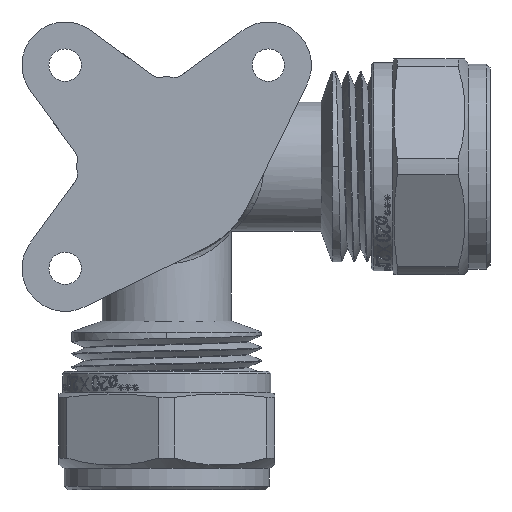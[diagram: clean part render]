
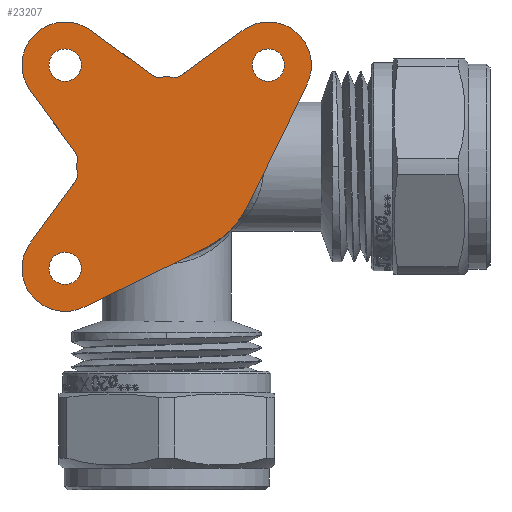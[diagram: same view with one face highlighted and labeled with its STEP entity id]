
A CAD part, front view. The second image highlights one B-rep face of the part: STEP entity #23207.
In plain terms, the highlighted planar face has unit normal (0, -1, 0).
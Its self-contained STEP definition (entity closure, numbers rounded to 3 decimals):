
#2416=LINE('',#29373,#3872);
#2420=LINE('',#29385,#3876);
#2423=LINE('',#29397,#3879);
#2425=LINE('',#29401,#3881);
#2427=LINE('',#29407,#3883);
#2429=LINE('',#29413,#3885);
#3872=VECTOR('',#24631,10.);
#3876=VECTOR('',#24645,10.);
#3879=VECTOR('',#24660,10.);
#3881=VECTOR('',#24664,10.);
#3883=VECTOR('',#24672,10.);
#3885=VECTOR('',#24680,10.);
#5425=FACE_BOUND('',#8056,.T.);
#5426=FACE_BOUND('',#8057,.T.);
#5427=FACE_BOUND('',#8058,.T.);
#6682=FACE_OUTER_BOUND('',#8055,.T.);
#8055=EDGE_LOOP('',(#21590,#21591,#21592,#21593,#21594,#21595,#21596,#21597,
#21598,#21599,#21600,#21601,#21602,#21603,#21604,#21605));
#8056=EDGE_LOOP('',(#21606,#21607));
#8057=EDGE_LOOP('',(#21608,#21609));
#8058=EDGE_LOOP('',(#21610,#21611));
#8091=CIRCLE('',#23287,12.5);
#8093=CIRCLE('',#23289,12.5);
#8095=CIRCLE('',#23291,12.5);
#8110=CIRCLE('',#23315,1.);
#8111=CIRCLE('',#23317,1.);
#8112=CIRCLE('',#23320,1.);
#8113=CIRCLE('',#23322,1.);
#8114=CIRCLE('',#23325,2.25);
#8115=CIRCLE('',#23326,2.25);
#8116=CIRCLE('',#23328,6.);
#8117=CIRCLE('',#23332,6.);
#8118=CIRCLE('',#23335,6.);
#8119=CIRCLE('',#23338,2.25);
#8120=CIRCLE('',#23339,2.25);
#8121=CIRCLE('',#23341,2.25);
#8122=CIRCLE('',#23342,2.25);
#8745=VERTEX_POINT('',#29211);
#8746=VERTEX_POINT('',#29213);
#8749=VERTEX_POINT('',#29219);
#8750=VERTEX_POINT('',#29221);
#8753=VERTEX_POINT('',#29227);
#8754=VERTEX_POINT('',#29229);
#8781=VERTEX_POINT('',#29363);
#8782=VERTEX_POINT('',#29367);
#8783=VERTEX_POINT('',#29371);
#8784=VERTEX_POINT('',#29375);
#8785=VERTEX_POINT('',#29379);
#8786=VERTEX_POINT('',#29383);
#8787=VERTEX_POINT('',#29387);
#8788=VERTEX_POINT('',#29388);
#8789=VERTEX_POINT('',#29393);
#8790=VERTEX_POINT('',#29399);
#8791=VERTEX_POINT('',#29403);
#8792=VERTEX_POINT('',#29409);
#8793=VERTEX_POINT('',#29415);
#8794=VERTEX_POINT('',#29416);
#8795=VERTEX_POINT('',#29421);
#8796=VERTEX_POINT('',#29422);
#11148=EDGE_CURVE('',#8746,#8745,#8091,.T.);
#11152=EDGE_CURVE('',#8750,#8749,#8093,.T.);
#11156=EDGE_CURVE('',#8754,#8753,#8095,.T.);
#11192=EDGE_CURVE('',#8750,#8781,#8110,.T.);
#11195=EDGE_CURVE('',#8782,#8749,#8111,.T.);
#11197=EDGE_CURVE('',#8782,#8783,#2416,.T.);
#11198=EDGE_CURVE('',#8754,#8784,#8112,.T.);
#11201=EDGE_CURVE('',#8785,#8753,#8113,.T.);
#11203=EDGE_CURVE('',#8785,#8786,#2420,.T.);
#11204=EDGE_CURVE('',#8787,#8788,#8114,.T.);
#11205=EDGE_CURVE('',#8788,#8787,#8115,.T.);
#11208=EDGE_CURVE('',#8783,#8789,#8116,.T.);
#11209=EDGE_CURVE('',#8789,#8746,#2423,.T.);
#11211=EDGE_CURVE('',#8745,#8790,#2425,.T.);
#11213=EDGE_CURVE('',#8790,#8791,#8117,.T.);
#11214=EDGE_CURVE('',#8791,#8784,#2427,.T.);
#11216=EDGE_CURVE('',#8786,#8792,#8118,.T.);
#11217=EDGE_CURVE('',#8792,#8781,#2429,.T.);
#11218=EDGE_CURVE('',#8793,#8794,#8119,.T.);
#11219=EDGE_CURVE('',#8794,#8793,#8120,.T.);
#11221=EDGE_CURVE('',#8795,#8796,#8121,.T.);
#11222=EDGE_CURVE('',#8796,#8795,#8122,.T.);
#21590=ORIENTED_EDGE('',*,*,#11197,.T.);
#21591=ORIENTED_EDGE('',*,*,#11208,.T.);
#21592=ORIENTED_EDGE('',*,*,#11209,.T.);
#21593=ORIENTED_EDGE('',*,*,#11148,.T.);
#21594=ORIENTED_EDGE('',*,*,#11211,.T.);
#21595=ORIENTED_EDGE('',*,*,#11213,.T.);
#21596=ORIENTED_EDGE('',*,*,#11214,.T.);
#21597=ORIENTED_EDGE('',*,*,#11198,.F.);
#21598=ORIENTED_EDGE('',*,*,#11156,.T.);
#21599=ORIENTED_EDGE('',*,*,#11201,.F.);
#21600=ORIENTED_EDGE('',*,*,#11203,.T.);
#21601=ORIENTED_EDGE('',*,*,#11216,.T.);
#21602=ORIENTED_EDGE('',*,*,#11217,.T.);
#21603=ORIENTED_EDGE('',*,*,#11192,.F.);
#21604=ORIENTED_EDGE('',*,*,#11152,.T.);
#21605=ORIENTED_EDGE('',*,*,#11195,.F.);
#21606=ORIENTED_EDGE('',*,*,#11204,.T.);
#21607=ORIENTED_EDGE('',*,*,#11205,.T.);
#21608=ORIENTED_EDGE('',*,*,#11218,.T.);
#21609=ORIENTED_EDGE('',*,*,#11219,.T.);
#21610=ORIENTED_EDGE('',*,*,#11221,.T.);
#21611=ORIENTED_EDGE('',*,*,#11222,.T.);
#21952=PLANE('',#24405);
#23207=ADVANCED_FACE('',(#6682,#5425,#5426,#5427),#21952,.T.);
#23287=AXIS2_PLACEMENT_3D('',#29214,#24549,#24550);
#23289=AXIS2_PLACEMENT_3D('',#29222,#24555,#24556);
#23291=AXIS2_PLACEMENT_3D('',#29230,#24561,#24562);
#23315=AXIS2_PLACEMENT_3D('',#29364,#24620,#24621);
#23317=AXIS2_PLACEMENT_3D('',#29369,#24626,#24627);
#23320=AXIS2_PLACEMENT_3D('',#29376,#24634,#24635);
#23322=AXIS2_PLACEMENT_3D('',#29381,#24640,#24641);
#23325=AXIS2_PLACEMENT_3D('',#29389,#24648,#24649);
#23326=AXIS2_PLACEMENT_3D('',#29390,#24650,#24651);
#23328=AXIS2_PLACEMENT_3D('',#29395,#24656,#24657);
#23332=AXIS2_PLACEMENT_3D('',#29405,#24668,#24669);
#23335=AXIS2_PLACEMENT_3D('',#29411,#24676,#24677);
#23338=AXIS2_PLACEMENT_3D('',#29417,#24683,#24684);
#23339=AXIS2_PLACEMENT_3D('',#29418,#24685,#24686);
#23341=AXIS2_PLACEMENT_3D('',#29423,#24690,#24691);
#23342=AXIS2_PLACEMENT_3D('',#29424,#24692,#24693);
#24405=AXIS2_PLACEMENT_3D('',#53048,#28211,#28212);
#24549=DIRECTION('center_axis',(0.,-1.,0.));
#24550=DIRECTION('ref_axis',(-0.439,0.,0.899));
#24555=DIRECTION('center_axis',(0.,-1.,0.));
#24556=DIRECTION('ref_axis',(0.992,0.,-0.124));
#24561=DIRECTION('center_axis',(0.,-1.,0.));
#24562=DIRECTION('ref_axis',(-0.124,0.,-0.992));
#24620=DIRECTION('center_axis',(0.,-1.,0.));
#24621=DIRECTION('ref_axis',(0.965,0.,0.264));
#24626=DIRECTION('center_axis',(0.,-1.,0.));
#24627=DIRECTION('ref_axis',(0.965,0.,-0.264));
#24631=DIRECTION('',(-0.588,0.,-0.809));
#24634=DIRECTION('center_axis',(0.,-1.,0.));
#24635=DIRECTION('ref_axis',(0.264,0.,-0.965));
#24640=DIRECTION('center_axis',(0.,-1.,0.));
#24641=DIRECTION('ref_axis',(-0.264,0.,-0.965));
#24645=DIRECTION('',(-0.809,0.,0.588));
#24648=DIRECTION('center_axis',(0.,1.,0.));
#24649=DIRECTION('ref_axis',(1.,0.,0.));
#24650=DIRECTION('center_axis',(0.,1.,0.));
#24651=DIRECTION('ref_axis',(1.,0.,0.));
#24656=DIRECTION('center_axis',(0.,-1.,0.));
#24657=DIRECTION('ref_axis',(0.809,0.,-0.588));
#24660=DIRECTION('',(0.899,0.,0.439));
#24664=DIRECTION('',(0.439,0.,0.899));
#24668=DIRECTION('center_axis',(0.,-1.,0.));
#24669=DIRECTION('ref_axis',(-0.899,0.,0.439));
#24672=DIRECTION('',(-0.809,0.,-0.588));
#24676=DIRECTION('center_axis',(0.,-1.,0.));
#24677=DIRECTION('ref_axis',(-0.588,0.,-0.809));
#24680=DIRECTION('',(0.588,0.,-0.809));
#24683=DIRECTION('center_axis',(0.,1.,0.));
#24684=DIRECTION('ref_axis',(1.,0.,0.));
#24685=DIRECTION('center_axis',(0.,1.,0.));
#24686=DIRECTION('ref_axis',(1.,0.,0.));
#24690=DIRECTION('center_axis',(0.,1.,0.));
#24691=DIRECTION('ref_axis',(1.,0.,0.));
#24692=DIRECTION('center_axis',(0.,1.,0.));
#24693=DIRECTION('ref_axis',(1.,0.,0.));
#28211=DIRECTION('center_axis',(0.,-1.,0.));
#28212=DIRECTION('ref_axis',(0.,0.,-1.));
#29211=CARTESIAN_POINT('',(11.232,-18.5,-5.486));
#29213=CARTESIAN_POINT('',(5.486,-18.5,-11.232));
#29214=CARTESIAN_POINT('Origin',(0.,-18.5,0.));
#29219=CARTESIAN_POINT('',(-12.444,-18.5,-1.182));
#29221=CARTESIAN_POINT('',(-12.444,-18.5,1.182));
#29222=CARTESIAN_POINT('Origin',(0.,-18.5,0.));
#29227=CARTESIAN_POINT('',(-1.182,-18.5,12.444));
#29229=CARTESIAN_POINT('',(1.182,-18.5,12.444));
#29230=CARTESIAN_POINT('Origin',(0.,-18.5,0.));
#29363=CARTESIAN_POINT('',(-12.631,-18.5,1.865));
#29364=CARTESIAN_POINT('Origin',(-13.439,-18.5,1.277));
#29367=CARTESIAN_POINT('',(-12.631,-18.5,-1.865));
#29369=CARTESIAN_POINT('Origin',(-13.439,-18.5,-1.277));
#29371=CARTESIAN_POINT('',(-18.994,-18.5,-10.613));
#29373=CARTESIAN_POINT('',(-14.56,-18.5,-4.517));
#29375=CARTESIAN_POINT('',(1.865,-18.5,12.631));
#29376=CARTESIAN_POINT('Origin',(1.277,-18.5,13.439));
#29379=CARTESIAN_POINT('',(-1.865,-18.5,12.631));
#29381=CARTESIAN_POINT('Origin',(-1.277,-18.5,13.439));
#29383=CARTESIAN_POINT('',(-10.613,-18.5,18.994));
#29385=CARTESIAN_POINT('',(-6.923,-18.5,16.31));
#29387=CARTESIAN_POINT('',(-11.892,-18.5,14.142));
#29388=CARTESIAN_POINT('',(-16.392,-18.5,14.142));
#29389=CARTESIAN_POINT('Origin',(-14.142,-18.5,14.142));
#29390=CARTESIAN_POINT('Origin',(-14.142,-18.5,14.142));
#29393=CARTESIAN_POINT('',(-11.509,-18.5,-19.533));
#29395=CARTESIAN_POINT('Origin',(-14.142,-18.5,-14.142));
#29397=CARTESIAN_POINT('',(-13.91,-18.5,-20.707));
#29399=CARTESIAN_POINT('',(19.533,-18.5,11.509));
#29401=CARTESIAN_POINT('',(8.631,-18.5,-10.81));
#29403=CARTESIAN_POINT('',(10.613,-18.5,18.994));
#29405=CARTESIAN_POINT('Origin',(14.142,-18.5,14.142));
#29407=CARTESIAN_POINT('',(-6.203,-18.5,6.761));
#29409=CARTESIAN_POINT('',(-18.994,-18.5,10.613));
#29411=CARTESIAN_POINT('Origin',(-14.142,-18.5,14.142));
#29413=CARTESIAN_POINT('',(-17.855,-18.5,9.047));
#29415=CARTESIAN_POINT('',(-11.892,-18.5,-14.142));
#29416=CARTESIAN_POINT('',(-16.392,-18.5,-14.142));
#29417=CARTESIAN_POINT('Origin',(-14.142,-18.5,-14.142));
#29418=CARTESIAN_POINT('Origin',(-14.142,-18.5,-14.142));
#29421=CARTESIAN_POINT('',(16.392,-18.5,14.142));
#29422=CARTESIAN_POINT('',(11.892,-18.5,14.142));
#29423=CARTESIAN_POINT('Origin',(14.142,-18.5,14.142));
#29424=CARTESIAN_POINT('Origin',(14.142,-18.5,14.142));
#53048=CARTESIAN_POINT('Origin',(-27.,-18.5,0.));
